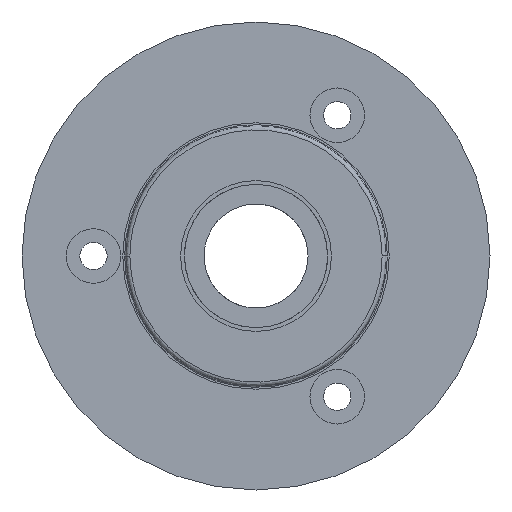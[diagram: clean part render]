
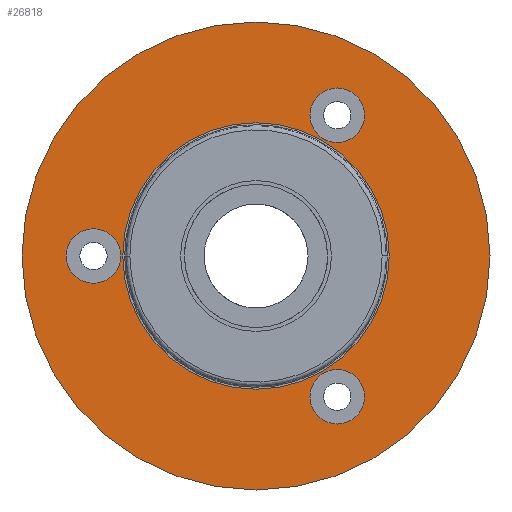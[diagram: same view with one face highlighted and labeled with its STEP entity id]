
A CAD part, left-side view. The second image highlights one B-rep face of the part: STEP entity #26818.
In plain terms, the highlighted planar face has unit normal (-1, 0, 0).
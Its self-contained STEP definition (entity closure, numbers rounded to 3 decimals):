
#794 = DIRECTION ( 'NONE',  ( 1., 0., 0. ) ) ;
#966 = EDGE_CURVE ( 'NONE', #62010, #29023, #50174, .T. ) ;
#1169 = DIRECTION ( 'NONE',  ( 0., -1., 0. ) ) ;
#2192 = DIRECTION ( 'NONE',  ( 1., 0., 0. ) ) ;
#2918 = DIRECTION ( 'NONE',  ( 1., 0., 0. ) ) ;
#3664 = DIRECTION ( 'NONE',  ( -1., 0., 0. ) ) ;
#5947 = CARTESIAN_POINT ( 'NONE',  ( 2.8, -4.15, 10.825 ) ) ;
#6959 = CIRCLE ( 'NONE', #12530, 7.5 ) ;
#7118 = CIRCLE ( 'NONE', #50571, 7.5 ) ;
#7286 = VERTEX_POINT ( 'NONE', #44383 ) ;
#7959 = EDGE_LOOP ( 'NONE', ( #32974, #21795 ) ) ;
#8646 = CIRCLE ( 'NONE', #23499, 2.1 ) ;
#8719 = DIRECTION ( 'NONE',  ( -1., 0., 0. ) ) ;
#9286 = EDGE_LOOP ( 'NONE', ( #14444, #46753 ) ) ;
#11498 = EDGE_CURVE ( 'NONE', #20298, #47800, #51434, .T. ) ;
#11559 = CARTESIAN_POINT ( 'NONE',  ( 2.8, -6.25, 10.825 ) ) ;
#12196 = DIRECTION ( 'NONE',  ( 0., -1., 0. ) ) ;
#12216 = ORIENTED_EDGE ( 'NONE', *, *, #54511, .T. ) ;
#12310 = CARTESIAN_POINT ( 'NONE',  ( 2.8, -7.5, 0. ) ) ;
#12530 = AXIS2_PLACEMENT_3D ( 'NONE', #55147, #55362, #60146 ) ;
#13507 = DIRECTION ( 'NONE',  ( 0., 1., 0. ) ) ;
#13764 = CARTESIAN_POINT ( 'NONE',  ( 2.8, 12.5, 0. ) ) ;
#14444 = ORIENTED_EDGE ( 'NONE', *, *, #966, .T. ) ;
#14577 = CARTESIAN_POINT ( 'NONE',  ( 2.8, 12.5, 0. ) ) ;
#15127 = CARTESIAN_POINT ( 'NONE',  ( 2.8, -8.35, 10.825 ) ) ;
#15263 = CIRCLE ( 'NONE', #43534, 2.1 ) ;
#15564 = EDGE_CURVE ( 'NONE', #26427, #19844, #6959, .T. ) ;
#16740 = ORIENTED_EDGE ( 'NONE', *, *, #15564, .T. ) ;
#16853 = EDGE_CURVE ( 'NONE', #22450, #21862, #45580, .T. ) ;
#16864 = AXIS2_PLACEMENT_3D ( 'NONE', #26088, #59298, #59722 ) ;
#17344 = AXIS2_PLACEMENT_3D ( 'NONE', #26974, #55189, #40978 ) ;
#19199 = ORIENTED_EDGE ( 'NONE', *, *, #16853, .T. ) ;
#19739 = DIRECTION ( 'NONE',  ( 1., 0., 0. ) ) ;
#19844 = VERTEX_POINT ( 'NONE', #12310 ) ;
#20087 = EDGE_CURVE ( 'NONE', #47800, #20298, #8646, .T. ) ;
#20298 = VERTEX_POINT ( 'NONE', #54458 ) ;
#20575 = CARTESIAN_POINT ( 'NONE',  ( 2.8, 10.4, 0. ) ) ;
#20957 = CARTESIAN_POINT ( 'NONE',  ( 2.8, -8.35, -10.825 ) ) ;
#21781 = EDGE_CURVE ( 'NONE', #29023, #62010, #15263, .T. ) ;
#21795 = ORIENTED_EDGE ( 'NONE', *, *, #11498, .T. ) ;
#21862 = VERTEX_POINT ( 'NONE', #20957 ) ;
#22450 = VERTEX_POINT ( 'NONE', #24080 ) ;
#23499 = AXIS2_PLACEMENT_3D ( 'NONE', #13764, #47173, #37366 ) ;
#23752 = EDGE_CURVE ( 'NONE', #39106, #7286, #32972, .T. ) ;
#24080 = CARTESIAN_POINT ( 'NONE',  ( 2.8, -4.15, -10.825 ) ) ;
#24499 = FACE_OUTER_BOUND ( 'NONE', #27647, .T. ) ;
#24535 = ORIENTED_EDGE ( 'NONE', *, *, #28710, .T. ) ;
#24755 = CARTESIAN_POINT ( 'NONE',  ( 2.8, -6.25, 10.825 ) ) ;
#26088 = CARTESIAN_POINT ( 'NONE',  ( 2.8, 7.5, 0. ) ) ;
#26313 = CARTESIAN_POINT ( 'NONE',  ( 2.8, 0., 0. ) ) ;
#26427 = VERTEX_POINT ( 'NONE', #33262 ) ;
#26818 = ADVANCED_FACE ( 'NONE', ( #24499, #49889, #43855, #45385, #34187 ), #54723, .T. ) ;
#26974 = CARTESIAN_POINT ( 'NONE',  ( 2.8, -6.25, -10.825 ) ) ;
#27647 = EDGE_LOOP ( 'NONE', ( #12216, #34447 ) ) ;
#28710 = EDGE_CURVE ( 'NONE', #19844, #26427, #7118, .T. ) ;
#29023 = VERTEX_POINT ( 'NONE', #5947 ) ;
#32118 = EDGE_LOOP ( 'NONE', ( #42931, #19199 ) ) ;
#32179 = EDGE_CURVE ( 'NONE', #21862, #22450, #46849, .T. ) ;
#32244 = CARTESIAN_POINT ( 'NONE',  ( 2.8, 0., 0. ) ) ;
#32972 = CIRCLE ( 'NONE', #60006, 18. ) ;
#32974 = ORIENTED_EDGE ( 'NONE', *, *, #20087, .T. ) ;
#33262 = CARTESIAN_POINT ( 'NONE',  ( 2.8, 7.5, 0. ) ) ;
#33781 = DIRECTION ( 'NONE',  ( 0., -1., 0. ) ) ;
#34187 = FACE_BOUND ( 'NONE', #7959, .T. ) ;
#34447 = ORIENTED_EDGE ( 'NONE', *, *, #23752, .T. ) ;
#37059 = DIRECTION ( 'NONE',  ( 0., 1., 0. ) ) ;
#37366 = DIRECTION ( 'NONE',  ( 0., -1., 0. ) ) ;
#39106 = VERTEX_POINT ( 'NONE', #39461 ) ;
#39461 = CARTESIAN_POINT ( 'NONE',  ( 2.8, -18., 0. ) ) ;
#40824 = CARTESIAN_POINT ( 'NONE',  ( 2.8, -6.25, -10.825 ) ) ;
#40978 = DIRECTION ( 'NONE',  ( 0., -1., 0. ) ) ;
#41352 = DIRECTION ( 'NONE',  ( 0., 1., 0. ) ) ;
#41521 = EDGE_LOOP ( 'NONE', ( #16740, #24535 ) ) ;
#42123 = CARTESIAN_POINT ( 'NONE',  ( 2.8, 0., 0. ) ) ;
#42931 = ORIENTED_EDGE ( 'NONE', *, *, #32179, .T. ) ;
#43534 = AXIS2_PLACEMENT_3D ( 'NONE', #24755, #19739, #1169 ) ;
#43855 = FACE_BOUND ( 'NONE', #9286, .T. ) ;
#43925 = AXIS2_PLACEMENT_3D ( 'NONE', #14577, #794, #33781 ) ;
#44383 = CARTESIAN_POINT ( 'NONE',  ( 2.8, 18., 0. ) ) ;
#45385 = FACE_BOUND ( 'NONE', #32118, .T. ) ;
#45580 = CIRCLE ( 'NONE', #17344, 2.1 ) ;
#45721 = AXIS2_PLACEMENT_3D ( 'NONE', #32244, #3664, #37059 ) ;
#45729 = AXIS2_PLACEMENT_3D ( 'NONE', #40824, #2192, #12196 ) ;
#46753 = ORIENTED_EDGE ( 'NONE', *, *, #21781, .T. ) ;
#46849 = CIRCLE ( 'NONE', #45729, 2.1 ) ;
#47173 = DIRECTION ( 'NONE',  ( 1., 0., 0. ) ) ;
#47800 = VERTEX_POINT ( 'NONE', #20575 ) ;
#48565 = CIRCLE ( 'NONE', #45721, 18. ) ;
#49788 = DIRECTION ( 'NONE',  ( 0., -1., 0. ) ) ;
#49889 = FACE_BOUND ( 'NONE', #41521, .T. ) ;
#50174 = CIRCLE ( 'NONE', #56011, 2.1 ) ;
#50571 = AXIS2_PLACEMENT_3D ( 'NONE', #26313, #2918, #41352 ) ;
#51434 = CIRCLE ( 'NONE', #43925, 2.1 ) ;
#54458 = CARTESIAN_POINT ( 'NONE',  ( 2.8, 14.6, 0. ) ) ;
#54511 = EDGE_CURVE ( 'NONE', #7286, #39106, #48565, .T. ) ;
#54723 = PLANE ( 'NONE',  #16864 ) ;
#55147 = CARTESIAN_POINT ( 'NONE',  ( 2.8, 0., 0. ) ) ;
#55189 = DIRECTION ( 'NONE',  ( 1., 0., 0. ) ) ;
#55362 = DIRECTION ( 'NONE',  ( 1., 0., 0. ) ) ;
#55449 = DIRECTION ( 'NONE',  ( 1., 0., 0. ) ) ;
#56011 = AXIS2_PLACEMENT_3D ( 'NONE', #11559, #55449, #49788 ) ;
#59298 = DIRECTION ( 'NONE',  ( -1., 0., 0. ) ) ;
#59722 = DIRECTION ( 'NONE',  ( 0., -1., 0. ) ) ;
#60006 = AXIS2_PLACEMENT_3D ( 'NONE', #42123, #8719, #13507 ) ;
#60146 = DIRECTION ( 'NONE',  ( 0., 1., 0. ) ) ;
#62010 = VERTEX_POINT ( 'NONE', #15127 ) ;
